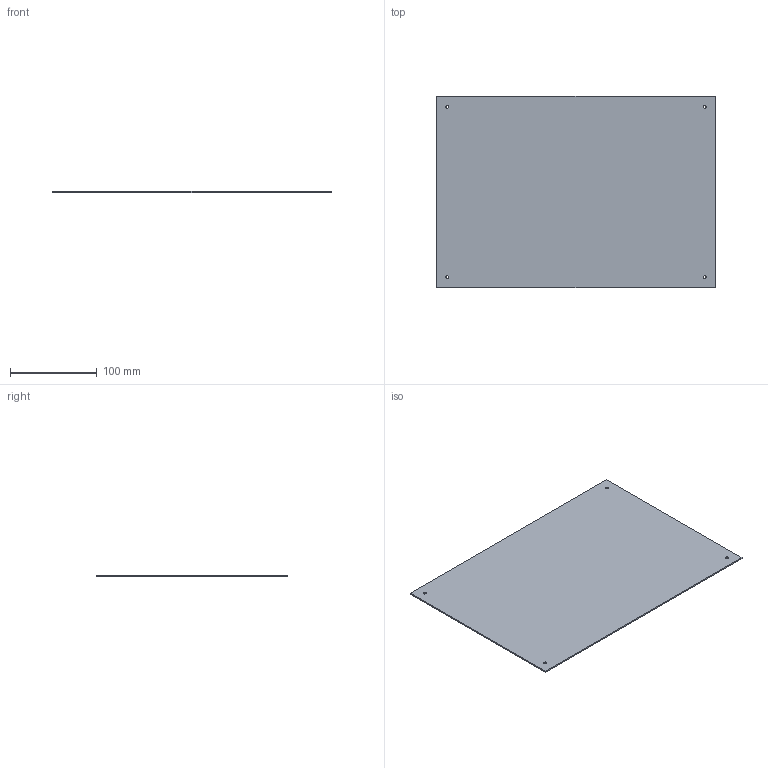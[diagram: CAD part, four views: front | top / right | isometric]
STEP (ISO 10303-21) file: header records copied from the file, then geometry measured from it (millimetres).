
FILE_DESCRIPTION(('KiCad electronic assembly'),'2;1');
FILE_NAME('board.step','2026-08-09T15:51:10',('Pcbnew'),('Kicad'), 'Open CASCADE STEP processor 7.9','KiCad to STEP converter','Unknown' );
FILE_SCHEMA(('AUTOMOTIVE_DESIGN { 1 0 10303 214 1 1 1 1 }'));
Length unit declared in the file: millimetre
Products named in the file (2): board 1; ds_xl_coder_PCB
Assembly tree (1 placements, depth 2):
  board 1
    ds_xl_coder_PCB
Bounding box: 320 x 220 x 1.51 mm (x, y, z)
Volume: 106255.4 mm3; surface area: 142427.2 mm2
Topology: 1 solids, 1 shells, 10 faces, 24 edges, 16 vertices
Faces by surface type: plane 6, cylinder 4
Full cylindrical faces by diameter (mm): 3.2 x4
Entity records: 349 total; most frequent: DIRECTION 56, CARTESIAN_POINT 52, ORIENTED_EDGE 48, EDGE_CURVE 24, AXIS2_PLACEMENT_3D 20, FACE_BOUND 18, EDGE_LOOP 18, VERTEX_POINT 16
